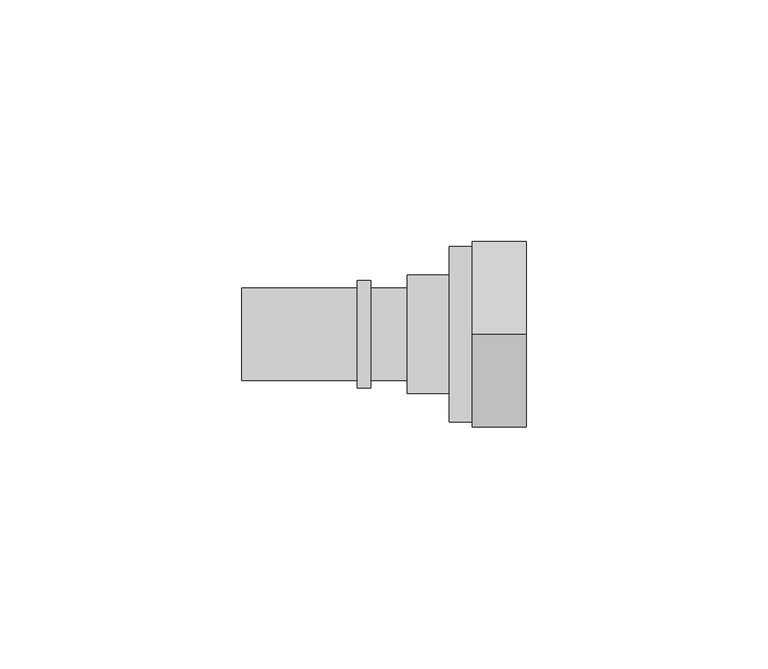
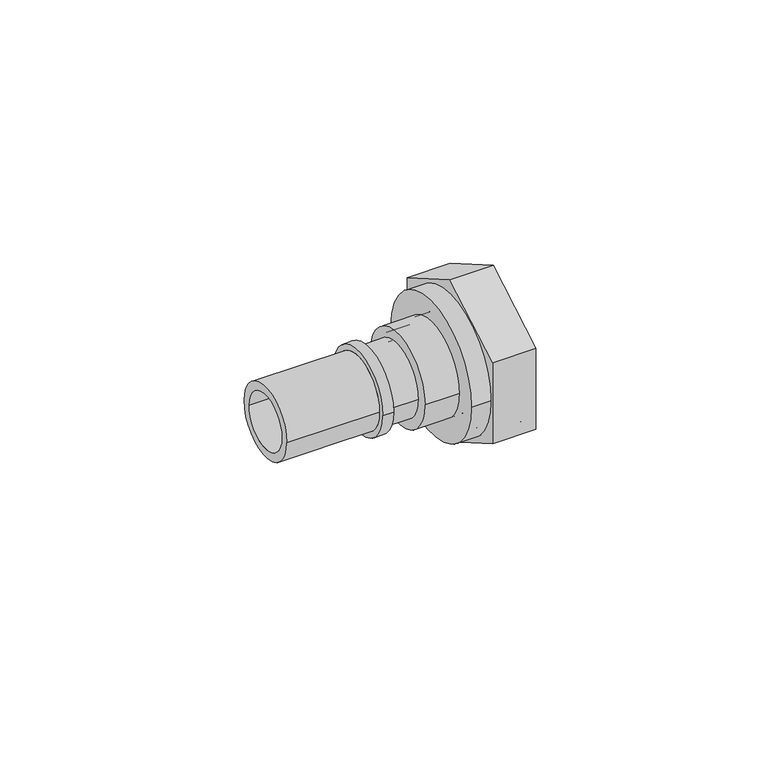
"""IFC4 building model written with IfcOpenShell, lengths in millimetres: pipe fitting geometry, FASTLOC_Adapter with union nut LX : FSL A union nut PL."""

from ifc_helpers import new_model, si_unit, point, frame, origin, origin_2d, place, context, project, spatial, polyline, circle_curve, trimmed, segment, composite_curve, outline, extrude, source, transform, mapped, element, save
from ifc_brep_helpers import plane_surface, cylinder_surface, revolved_surface, advanced_brep


def pipe_fitting_933a2e3b(model_context):
    return source(origin(), model_context, "Body", "SolidModel", [
        advanced_brep(
        [(12.0, 12.25, 0.0), (12.0, -12.25, 0.0), (0.0, -12.25, 0.0), (0.0, 12.25, 0.0), (14.0, 16.35, 0.0), (14.0, -16.35, 0.0), (12.0, -16.35, 0.0), (12.0, 16.35, 0.0), (1.4730817, 10.5, 0.0), (1.4730817, -10.5, 0.0), (14.0, -10.5, 0.0), (14.0, 10.5, 0.0), (0.0, 8.3264556, 0.0), (0.0, -8.3264556, 0.0), (1.4730817, -8.3264556, 0.0), (1.4730817, 8.3264556, 0.0)],
        [
            (0, 1, circle_curve(frame((12.0, 0.0, 0.0), z_axis=(-1.0, 0.0, 0.0), x_axis=(0.0, -1.0, 0.0)), 12.25)),
            (1, 2),
            (2, 3, circle_curve(frame((0.0, 0.0, 0.0), z_axis=(1.0, 0.0, 0.0), x_axis=(0.0, -1.0, 0.0)), 12.25)),
            (3, 0),
            (4, 5, circle_curve(frame((14.0, 0.0, 0.0), z_axis=(-1.0, 0.0, 0.0), x_axis=(0.0, -1.0, 0.0)), 16.35)),
            (5, 6),
            (6, 7, circle_curve(frame((12.0, 0.0, 0.0), z_axis=(1.0, 0.0, 0.0), x_axis=(0.0, -1.0, 0.0)), 16.35)),
            (7, 4),
            (8, 9, circle_curve(frame((1.4730817, 0.0, 0.0), z_axis=(-1.0, 0.0, 0.0), x_axis=(0.0, -1.0, 0.0)), 10.5)),
            (9, 10),
            (10, 11, circle_curve(frame((14.0, 0.0, 0.0), z_axis=(1.0, 0.0, 0.0), x_axis=(0.0, -1.0, 0.0)), 10.5)),
            (11, 8),
            (12, 13, circle_curve(frame((0.0, 0.0, 0.0), z_axis=(-1.0, 0.0, 0.0), x_axis=(0.0, -1.0, 0.0)), 8.3264556)),
            (13, 14),
            (14, 15, circle_curve(frame((1.4730817, 0.0, 0.0), z_axis=(1.0, 0.0, 0.0), x_axis=(0.0, -1.0, 0.0)), 8.3264556)),
            (15, 12),
            (2, 3, circle_curve(frame((0.0, 0.0, 0.0), z_axis=(-1.0, 0.0, 0.0), x_axis=(0.0, 1.0, 0.0)), 12.25)),
            (12, 13, circle_curve(frame((0.0, 0.0, 0.0), z_axis=(1.0, 0.0, 0.0), x_axis=(0.0, 1.0, 0.0)), 8.3264556)),
            (1, 0, circle_curve(frame((12.0, 0.0, 0.0), z_axis=(-1.0, 0.0, 0.0), x_axis=(0.0, 1.0, 0.0)), 12.25)),
            (6, 7, circle_curve(frame((12.0, 0.0, 0.0), z_axis=(-1.0, 0.0, 0.0), x_axis=(0.0, 1.0, 0.0)), 16.35)),
            (5, 4, circle_curve(frame((14.0, 0.0, 0.0), z_axis=(-1.0, 0.0, 0.0), x_axis=(0.0, 1.0, 0.0)), 16.35)),
            (10, 11, circle_curve(frame((14.0, 0.0, 0.0), z_axis=(-1.0, 0.0, 0.0), x_axis=(0.0, 1.0, 0.0)), 10.5)),
            (9, 8, circle_curve(frame((1.4730817, 0.0, 0.0), z_axis=(-1.0, 0.0, 0.0), x_axis=(0.0, 1.0, 0.0)), 10.5)),
            (14, 15, circle_curve(frame((1.4730817, 0.0, 0.0), z_axis=(-1.0, 0.0, 0.0), x_axis=(0.0, 1.0, 0.0)), 8.3264556)),
        ],
        [
            cylinder_surface(frame((0.0, 0.0, 0.0), z_axis=(1.0, 0.0, 0.0), x_axis=(0.0, -1.0, 0.0)), 12.25),
            cylinder_surface(frame((0.0, 0.0, 0.0), z_axis=(1.0, 0.0, 0.0), x_axis=(0.0, -1.0, 0.0)), 16.35),
            revolved_surface(polyline([(14.0, -10.5, 0.0), (1.4730817, -10.5, 0.0)]), (0.0, 0.0, 0.0), (1.0, 0.0, 0.0)),
            revolved_surface(polyline([(1.4730817, -8.3264556, 0.0), (0.0, -8.3264556, 0.0)]), (0.0, 0.0, 0.0), (1.0, 0.0, 0.0)),
            plane_surface(frame((0.0, 0.0, 0.0), z_axis=(-1.0, 0.0, 0.0), x_axis=(0.0, 1.0, 0.0))),
            cylinder_surface(frame((0.0, 0.0, 0.0), z_axis=(1.0, 0.0, 0.0), x_axis=(0.0, 1.0, 0.0)), 12.25),
            plane_surface(frame((12.0, 0.0, 0.0), z_axis=(-1.0, 0.0, 0.0), x_axis=(0.0, 1.0, 0.0))),
            cylinder_surface(frame((0.0, 0.0, 0.0), z_axis=(1.0, 0.0, 0.0), x_axis=(0.0, 1.0, 0.0)), 16.35),
            plane_surface(frame((14.0, 0.0, 0.0), z_axis=(1.0, 0.0, 0.0), x_axis=(0.0, 1.0, 0.0))),
            revolved_surface(polyline([(14.0, 10.5, 0.0), (1.4730817, 10.5, 0.0)]), (0.0, 0.0, 0.0), (1.0, 0.0, 0.0)),
            plane_surface(frame((1.4730817, 0.0, 0.0), z_axis=(1.0, 0.0, 0.0), x_axis=(0.0, 1.0, 0.0))),
            revolved_surface(polyline([(1.4730817, 8.3264556, 0.0), (0.0, 8.3264556, 0.0)]), (0.0, 0.0, 0.0), (1.0, 0.0, 0.0)),
        ],
        [
            (0, [[1, 2, 3, 4]]),
            (1, [[5, 6, 7, 8]]),
            (2, [[9, 10, 11, 12]]),
            (3, [[13, 14, 15, 16]]),
            (4, [[17, -3], [18, -13]]),
            (5, [[19, -4, -17, -2]]),
            (6, [[20, -7], [-19, -1]]),
            (7, [[21, -8, -20, -6]]),
            (8, [[-21, -5], [22, -11]]),
            (9, [[23, -12, -22, -10]]),
            (10, [[-23, -9], [24, -15]]),
            (11, [[-18, -16, -24, -14]]),
        ],
    ),
        advanced_brep(
        [(24.7, 18.2, 0.0), (24.7, -18.2, 0.0), (8.7, -18.2, 0.0), (8.7, 18.2, 0.0), (12.2, 15.3, 0.0), (12.2, -15.3, 0.0), (24.7, -15.3, 0.0), (24.7, 15.3, 0.0), (8.7, 11.8, 0.0), (8.7, -11.8, 0.0), (12.2, -11.8, 0.0), (12.2, 11.8, 0.0)],
        [
            (0, 1, circle_curve(frame((24.7, 0.0, 0.0), z_axis=(-1.0, 0.0, 0.0), x_axis=(0.0, -1.0, 0.0)), 18.2)),
            (1, 2),
            (2, 3, circle_curve(frame((8.7, 0.0, 0.0), z_axis=(1.0, 0.0, 0.0), x_axis=(0.0, -1.0, 0.0)), 18.2)),
            (3, 0),
            (4, 5, circle_curve(frame((12.2, 0.0, 0.0), z_axis=(-1.0, 0.0, 0.0), x_axis=(0.0, -1.0, 0.0)), 15.3)),
            (5, 6),
            (6, 7, circle_curve(frame((24.7, 0.0, 0.0), z_axis=(1.0, 0.0, 0.0), x_axis=(0.0, -1.0, 0.0)), 15.3)),
            (7, 4),
            (8, 9, circle_curve(frame((8.7, 0.0, 0.0), z_axis=(-1.0, 0.0, 0.0), x_axis=(0.0, -1.0, 0.0)), 11.8)),
            (9, 10),
            (10, 11, circle_curve(frame((12.2, 0.0, 0.0), z_axis=(1.0, 0.0, 0.0), x_axis=(0.0, -1.0, 0.0)), 11.8)),
            (11, 8),
            (1, 0, circle_curve(frame((24.7, 0.0, 0.0), z_axis=(-1.0, 0.0, 0.0), x_axis=(0.0, 1.0, 0.0)), 18.2)),
            (3, 2, circle_curve(frame((8.7, 0.0, 0.0), z_axis=(1.0, 0.0, 0.0), x_axis=(0.0, 1.0, 0.0)), 18.2)),
            (6, 7, circle_curve(frame((24.7, 0.0, 0.0), z_axis=(-1.0, 0.0, 0.0), x_axis=(0.0, 1.0, 0.0)), 15.3)),
            (5, 4, circle_curve(frame((12.2, 0.0, 0.0), z_axis=(-1.0, 0.0, 0.0), x_axis=(0.0, 1.0, 0.0)), 15.3)),
            (10, 11, circle_curve(frame((12.2, 0.0, 0.0), z_axis=(-1.0, 0.0, 0.0), x_axis=(0.0, 1.0, 0.0)), 11.8)),
            (9, 8, circle_curve(frame((8.7, 0.0, 0.0), z_axis=(-1.0, 0.0, 0.0), x_axis=(0.0, 1.0, 0.0)), 11.8)),
        ],
        [
            cylinder_surface(frame((0.0, 0.0, 0.0), z_axis=(1.0, 0.0, 0.0), x_axis=(0.0, -1.0, 0.0)), 18.2),
            revolved_surface(polyline([(24.7, -15.3, 0.0), (12.2, -15.3, 0.0)]), (0.0, 0.0, 0.0), (1.0, 0.0, 0.0)),
            revolved_surface(polyline([(12.2, -11.8, 0.0), (8.7, -11.8, 0.0)]), (0.0, 0.0, 0.0), (1.0, 0.0, 0.0)),
            cylinder_surface(frame((0.0, 0.0, 0.0), z_axis=(1.0, 0.0, 0.0), x_axis=(0.0, 1.0, 0.0)), 18.2),
            plane_surface(frame((24.7, 0.0, 0.0), z_axis=(1.0, 0.0, 0.0), x_axis=(0.0, 1.0, 0.0))),
            revolved_surface(polyline([(24.7, 15.3, 0.0), (12.2, 15.3, 0.0)]), (0.0, 0.0, 0.0), (1.0, 0.0, 0.0)),
            plane_surface(frame((12.2, 0.0, 0.0), z_axis=(1.0, 0.0, 0.0), x_axis=(0.0, 1.0, 0.0))),
            revolved_surface(polyline([(12.2, 11.8, 0.0), (8.7, 11.8, 0.0)]), (0.0, 0.0, 0.0), (1.0, 0.0, 0.0)),
            plane_surface(frame((8.7, 0.0, 0.0), z_axis=(-1.0, 0.0, 0.0), x_axis=(0.0, 1.0, 0.0))),
        ],
        [
            (0, [[1, 2, 3, 4]]),
            (1, [[5, 6, 7, 8]]),
            (2, [[9, 10, 11, 12]]),
            (3, [[13, -4, 14, -2]]),
            (4, [[-13, -1], [15, -7]]),
            (5, [[16, -8, -15, -6]]),
            (6, [[-16, -5], [17, -11]]),
            (7, [[18, -12, -17, -10]]),
            (8, [[-14, -3], [-18, -9]]),
        ],
    ),
        extrude(outline(polyline([(0.0, -22.2279854), (-19.25, -11.1139927), (-19.25, 11.1139927), (0.0, 22.2279854), (19.25, 11.1139927), (19.25, -11.1139927), (0.0, -22.2279854)]), holes=[composite_curve([segment(trimmed(circle_curve(origin_2d(), 15.3), [point((-15.3, 0.0))], [point((15.3, 0.0))], True, "CARTESIAN"), True, "CONTINUOUS"), segment(trimmed(circle_curve(origin_2d(), 15.3), [point((15.3, 0.0))], [point((-15.3, 0.0))], True, "CARTESIAN"), True, "CONTINUOUS")], self_intersect=False)]), frame((13.5, 0.0, 0.0), z_axis=(1.0, 0.0, 0.0), x_axis=(0.0, 1.0, 0.0)), (0.0, 0.0, 1.0), 11.2),
        advanced_brep(
        [(-10.3, 9.6, 0.0), (-10.3, -9.6, 0.0), (-34.3, -9.6, 0.0), (-34.3, 9.6, 0.0), (-7.5, 11.1, 0.0), (-7.5, -11.1, 0.0), (-10.3, -11.1, 0.0), (-10.3, 11.1, 0.0), (0.0, 9.6, 0.0), (0.0, -9.6, 0.0), (-7.5, -9.6, 0.0), (-7.5, 9.6, 0.0), (-34.3, 7.35, 0.0), (-34.3, -7.35, 0.0), (0.0, -7.35, 0.0), (0.0, 7.35, 0.0)],
        [
            (0, 1, circle_curve(frame((-10.3, 0.0, 0.0), z_axis=(-1.0, 0.0, 0.0), x_axis=(0.0, -1.0, 0.0)), 9.6)),
            (1, 2),
            (2, 3, circle_curve(frame((-34.3, 0.0, 0.0), z_axis=(1.0, 0.0, 0.0), x_axis=(0.0, -1.0, 0.0)), 9.6)),
            (3, 0),
            (4, 5, circle_curve(frame((-7.5, 0.0, 0.0), z_axis=(-1.0, 0.0, 0.0), x_axis=(0.0, -1.0, 0.0)), 11.1)),
            (5, 6),
            (6, 7, circle_curve(frame((-10.3, 0.0, 0.0), z_axis=(1.0, 0.0, 0.0), x_axis=(0.0, -1.0, 0.0)), 11.1)),
            (7, 4),
            (8, 9, circle_curve(frame((0.0, 0.0, 0.0), z_axis=(-1.0, 0.0, 0.0), x_axis=(0.0, -1.0, 0.0)), 9.6)),
            (9, 10),
            (10, 11, circle_curve(frame((-7.5, 0.0, 0.0), z_axis=(1.0, 0.0, 0.0), x_axis=(0.0, -1.0, 0.0)), 9.6)),
            (11, 8),
            (12, 13, circle_curve(frame((-34.3, 0.0, 0.0), z_axis=(-1.0, 0.0, 0.0), x_axis=(0.0, -1.0, 0.0)), 7.35)),
            (13, 14),
            (14, 15, circle_curve(frame((0.0, 0.0, 0.0), z_axis=(1.0, 0.0, 0.0), x_axis=(0.0, -1.0, 0.0)), 7.35)),
            (15, 12),
            (2, 3, circle_curve(frame((-34.3, 0.0, 0.0), z_axis=(-1.0, 0.0, 0.0), x_axis=(0.0, 1.0, 0.0)), 9.6)),
            (12, 13, circle_curve(frame((-34.3, 0.0, 0.0), z_axis=(1.0, 0.0, 0.0), x_axis=(0.0, 1.0, 0.0)), 7.35)),
            (1, 0, circle_curve(frame((-10.3, 0.0, 0.0), z_axis=(-1.0, 0.0, 0.0), x_axis=(0.0, 1.0, 0.0)), 9.6)),
            (6, 7, circle_curve(frame((-10.3, 0.0, 0.0), z_axis=(-1.0, 0.0, 0.0), x_axis=(0.0, 1.0, 0.0)), 11.1)),
            (5, 4, circle_curve(frame((-7.5, 0.0, 0.0), z_axis=(-1.0, 0.0, 0.0), x_axis=(0.0, 1.0, 0.0)), 11.1)),
            (10, 11, circle_curve(frame((-7.5, 0.0, 0.0), z_axis=(-1.0, 0.0, 0.0), x_axis=(0.0, 1.0, 0.0)), 9.6)),
            (9, 8, circle_curve(frame((0.0, 0.0, 0.0), z_axis=(-1.0, 0.0, 0.0), x_axis=(0.0, 1.0, 0.0)), 9.6)),
            (14, 15, circle_curve(frame((0.0, 0.0, 0.0), z_axis=(-1.0, 0.0, 0.0), x_axis=(0.0, 1.0, 0.0)), 7.35)),
        ],
        [
            cylinder_surface(frame((0.0, 0.0, 0.0), z_axis=(1.0, 0.0, 0.0), x_axis=(0.0, -1.0, 0.0)), 9.6),
            cylinder_surface(frame((0.0, 0.0, 0.0), z_axis=(1.0, 0.0, 0.0), x_axis=(0.0, -1.0, 0.0)), 11.1),
            revolved_surface(polyline([(0.0, -7.35, 0.0), (-34.3, -7.35, 0.0)]), (0.0, 0.0, 0.0), (1.0, 0.0, 0.0)),
            plane_surface(frame((-34.3, 0.0, 0.0), z_axis=(-1.0, 0.0, 0.0), x_axis=(0.0, 1.0, 0.0))),
            cylinder_surface(frame((0.0, 0.0, 0.0), z_axis=(1.0, 0.0, 0.0), x_axis=(0.0, 1.0, 0.0)), 9.6),
            plane_surface(frame((-10.3, 0.0, 0.0), z_axis=(-1.0, 0.0, 0.0), x_axis=(0.0, 1.0, 0.0))),
            cylinder_surface(frame((0.0, 0.0, 0.0), z_axis=(1.0, 0.0, 0.0), x_axis=(0.0, 1.0, 0.0)), 11.1),
            plane_surface(frame((-7.5, 0.0, 0.0), z_axis=(1.0, 0.0, 0.0), x_axis=(0.0, 1.0, 0.0))),
            plane_surface(frame((0.0, 0.0, 0.0), z_axis=(1.0, 0.0, 0.0), x_axis=(0.0, 1.0, 0.0))),
            revolved_surface(polyline([(0.0, 7.35, 0.0), (-34.3, 7.35, 0.0)]), (0.0, 0.0, 0.0), (1.0, 0.0, 0.0)),
        ],
        [
            (0, [[1, 2, 3, 4]]),
            (1, [[5, 6, 7, 8]]),
            (0, [[9, 10, 11, 12]]),
            (2, [[13, 14, 15, 16]]),
            (3, [[17, -3], [18, -13]]),
            (4, [[19, -4, -17, -2]]),
            (5, [[20, -7], [-19, -1]]),
            (6, [[21, -8, -20, -6]]),
            (7, [[-21, -5], [22, -11]]),
            (4, [[23, -12, -22, -10]]),
            (8, [[-23, -9], [24, -15]]),
            (9, [[-18, -16, -24, -14]]),
        ],
    ),
    ])


if __name__ == "__main__":
    model = new_model("IFC4")
    model_context = context("Model", 3, world=origin())
    ifc_project = project(units=[si_unit("LENGTHUNIT", "METRE", prefix="MILLI")], contexts=[model_context])
    site = spatial("IfcSite", under=ifc_project)
    building = spatial("IfcBuilding", under=site)
    placement = place(None, origin())
    pipe_fitting_shape = pipe_fitting_933a2e3b(model_context)
    element("IfcPipeFitting", 1, ObjectType="FASTLOC_Adapter with union nut LX : FSL A union nut PL", at=placement, inside=building, context=model_context, shape_type="MappedRepresentation", body=[
        mapped(pipe_fitting_shape, transform((0.0, 0.0, 0.0), x_axis=(1.0, 0.0, 0.0), y_axis=(0.0, 1.0, 0.0), z_axis=(0.0, 0.0, 1.0))),
    ])
    save(model, "model.ifc")
